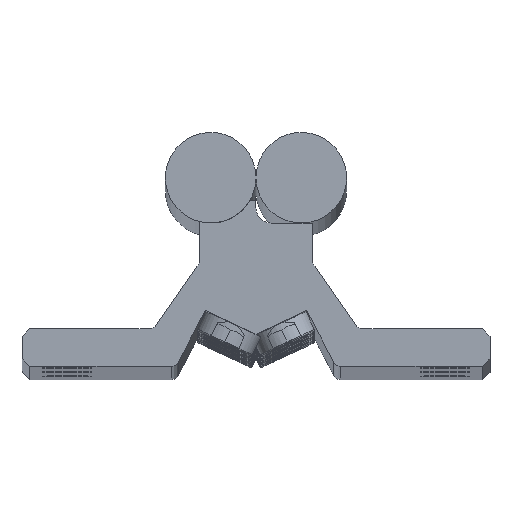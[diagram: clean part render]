
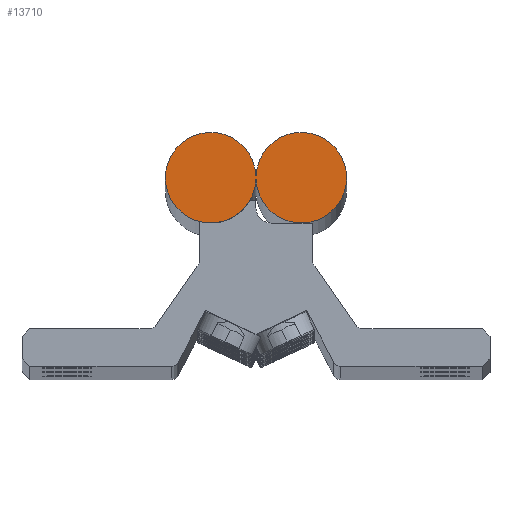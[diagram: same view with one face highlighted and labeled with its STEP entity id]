
A CAD part, top view. The second image highlights one B-rep face of the part: STEP entity #13710.
In plain terms, the highlighted planar face has unit normal (0, 0, 1).
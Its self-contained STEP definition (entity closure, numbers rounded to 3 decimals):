
#437 = VERTEX_POINT ( 'NONE', #16720 ) ;
#439 = EDGE_CURVE ( 'NONE', #440, #437, #16357, .T. ) ;
#440 = VERTEX_POINT ( 'NONE', #16777 ) ;
#6198 = DIRECTION ( 'NONE',  ( 1., 0., 0. ) ) ;
#6199 = DIRECTION ( 'NONE',  ( 0., 0., 1. ) ) ;
#6200 = CARTESIAN_POINT ( 'NONE',  ( 6., 25., 1. ) ) ;
#6201 = AXIS2_PLACEMENT_3D ( 'NONE', #6200, #6199, #6198 ) ;
#6202 = CIRCLE ( 'NONE', #6201, 6. ) ;
#6204 = CARTESIAN_POINT ( 'NONE',  ( 0.005, 25.25, 1. ) ) ;
#6278 = CARTESIAN_POINT ( 'NONE',  ( -0.005, 25.25, 1. ) ) ;
#6285 = DIRECTION ( 'NONE',  ( -1., 0., 0. ) ) ;
#6286 = VECTOR ( 'NONE', #6285, 1000. ) ;
#6287 = CARTESIAN_POINT ( 'NONE',  ( 0.005, 25.25, 1. ) ) ;
#6288 = LINE ( 'NONE', #6287, #6286 ) ;
#6307 = DIRECTION ( 'NONE',  ( 1., 0., 0. ) ) ;
#6308 = DIRECTION ( 'NONE',  ( 0., 0., 1. ) ) ;
#6309 = AXIS2_PLACEMENT_3D ( 'NONE', #6315, #6308, #6307 ) ;
#6310 = CIRCLE ( 'NONE', #6309, 6. ) ;
#6315 = CARTESIAN_POINT ( 'NONE',  ( -6., 25., 1. ) ) ;
#6323 = CARTESIAN_POINT ( 'NONE',  ( -0.005, 24.75, 1. ) ) ;
#6324 = DIRECTION ( 'NONE',  ( 1., 0., 0. ) ) ;
#6325 = VECTOR ( 'NONE', #6324, 1000. ) ;
#6326 = CARTESIAN_POINT ( 'NONE',  ( -0.005, 24.75, 1. ) ) ;
#6327 = LINE ( 'NONE', #6326, #6325 ) ;
#6361 = DIRECTION ( 'NONE',  ( 1., 0., 0. ) ) ;
#6362 = DIRECTION ( 'NONE',  ( 0., 0., 1. ) ) ;
#6363 = CARTESIAN_POINT ( 'NONE',  ( 6., 25., 1. ) ) ;
#6364 = AXIS2_PLACEMENT_3D ( 'NONE', #6363, #6362, #6361 ) ;
#6365 = FACE_OUTER_BOUND ( 'NONE', #13711, .T. ) ;
#6370 = PLANE ( 'NONE',  #6364 ) ;
#12261 = ORIENTED_EDGE ( 'NONE', *, *, #13662, .T. ) ;
#13608 = VERTEX_POINT ( 'NONE', #6204 ) ;
#13610 = EDGE_CURVE ( 'NONE', #437, #13608, #6202, .T. ) ;
#13629 = ORIENTED_EDGE ( 'NONE', *, *, #439, .T. ) ;
#13630 = ORIENTED_EDGE ( 'NONE', *, *, #13610, .T. ) ;
#13631 = ORIENTED_EDGE ( 'NONE', *, *, #13637, .T. ) ;
#13632 = ORIENTED_EDGE ( 'NONE', *, *, #13670, .T. ) ;
#13637 = EDGE_CURVE ( 'NONE', #13608, #13645, #6288, .T. ) ;
#13645 = VERTEX_POINT ( 'NONE', #6278 ) ;
#13662 = EDGE_CURVE ( 'NONE', #13663, #440, #6327, .T. ) ;
#13663 = VERTEX_POINT ( 'NONE', #6323 ) ;
#13670 = EDGE_CURVE ( 'NONE', #13645, #13663, #6310, .T. ) ;
#13710 = ADVANCED_FACE ( 'NONE', ( #6365 ), #6370, .T. ) ;
#13711 = EDGE_LOOP ( 'NONE', ( #13629, #13630, #13631, #13632, #12261 ) ) ;
#16356 = AXIS2_PLACEMENT_3D ( 'NONE', #16518, #16521, #16520 ) ;
#16357 = CIRCLE ( 'NONE', #16356, 6. ) ;
#16518 = CARTESIAN_POINT ( 'NONE',  ( 6., 25., 1. ) ) ;
#16520 = DIRECTION ( 'NONE',  ( 1., 0., 0. ) ) ;
#16521 = DIRECTION ( 'NONE',  ( 0., 0., 1. ) ) ;
#16720 = CARTESIAN_POINT ( 'NONE',  ( 12., 25., 1. ) ) ;
#16777 = CARTESIAN_POINT ( 'NONE',  ( 0.005, 24.75, 1. ) ) ;
